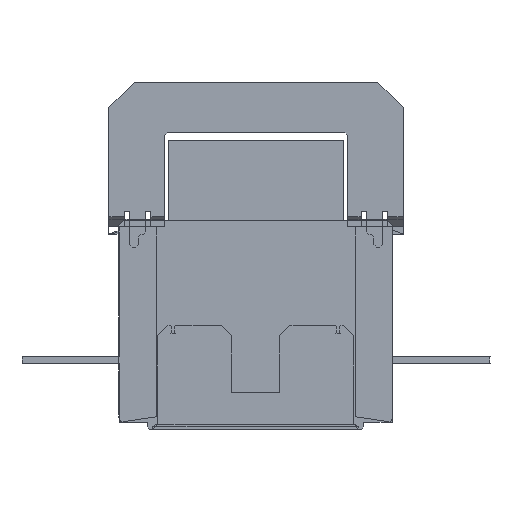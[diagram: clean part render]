
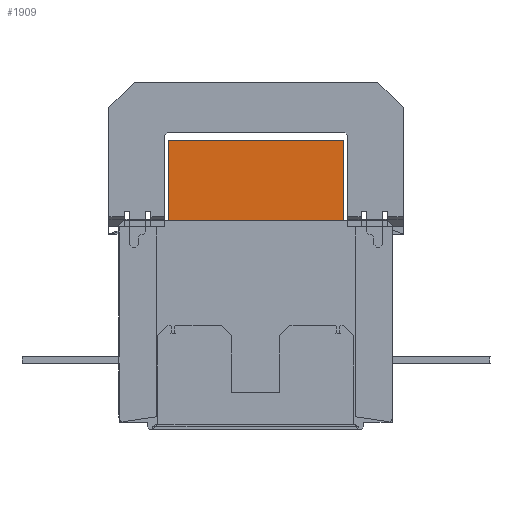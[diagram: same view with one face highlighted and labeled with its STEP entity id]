
A CAD part, front view. The second image highlights one B-rep face of the part: STEP entity #1909.
In plain terms, the highlighted planar face has unit normal (0, -1, 0).
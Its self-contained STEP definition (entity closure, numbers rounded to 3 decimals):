
#1909=ADVANCED_FACE('',(#2664),#14051,.T.);
#2664=FACE_OUTER_BOUND('',#3419,.T.);
#3419=EDGE_LOOP('',(#7840,#7841,#7842,#7843));
#7840=ORIENTED_EDGE('',*,*,#10388,.F.);
#7841=ORIENTED_EDGE('',*,*,#10387,.F.);
#7842=ORIENTED_EDGE('',*,*,#10385,.F.);
#7843=ORIENTED_EDGE('',*,*,#10383,.F.);
#10383=EDGE_CURVE('',#13565,#13564,#12009,.T.);
#10385=EDGE_CURVE('',#13564,#13566,#12011,.T.);
#10387=EDGE_CURVE('',#13566,#13567,#12013,.T.);
#10388=EDGE_CURVE('',#13567,#13565,#12014,.T.);
#12009=B_SPLINE_CURVE_WITH_KNOTS('',1,(#24770,#24771),.UNSPECIFIED.,.F.,
 .F.,(2,2),(0.,17.),.UNSPECIFIED.);
#12011=B_SPLINE_CURVE_WITH_KNOTS('',1,(#24774,#24775),.UNSPECIFIED.,.F.,
 .F.,(2,2),(17.,51.5),.UNSPECIFIED.);
#12013=B_SPLINE_CURVE_WITH_KNOTS('',1,(#24778,#24779),.UNSPECIFIED.,.F.,
 .F.,(2,2),(-8.5,8.5),.UNSPECIFIED.);
#12014=B_SPLINE_CURVE_WITH_KNOTS('',1,(#24780,#24781),.UNSPECIFIED.,.F.,
 .F.,(2,2),(68.5,103.),.UNSPECIFIED.);
#13564=VERTEX_POINT('',#24754);
#13565=VERTEX_POINT('',#24755);
#13566=VERTEX_POINT('',#24756);
#13567=VERTEX_POINT('',#24757);
#14051=PLANE('',#14566);
#14566=AXIS2_PLACEMENT_3D('',#24749,#14995,$);
#14995=DIRECTION('',(0.,-1.,0.));
#24749=CARTESIAN_POINT('',(-21.31,-845.299,-1018.993));
#24754=CARTESIAN_POINT('',(17.25,-845.299,-1038.302));
#24755=CARTESIAN_POINT('',(17.25,-845.299,-1021.302));
#24756=CARTESIAN_POINT('',(-17.25,-845.299,-1038.302));
#24757=CARTESIAN_POINT('',(-17.25,-845.299,-1021.302));
#24770=CARTESIAN_POINT('',(17.25,-845.299,-1021.302));
#24771=CARTESIAN_POINT('',(17.25,-845.299,-1038.302));
#24774=CARTESIAN_POINT('',(17.25,-845.299,-1038.302));
#24775=CARTESIAN_POINT('',(-17.25,-845.299,-1038.302));
#24778=CARTESIAN_POINT('',(-17.25,-845.299,-1038.302));
#24779=CARTESIAN_POINT('',(-17.25,-845.299,-1021.302));
#24780=CARTESIAN_POINT('',(-17.25,-845.299,-1021.302));
#24781=CARTESIAN_POINT('',(17.25,-845.299,-1021.302));
